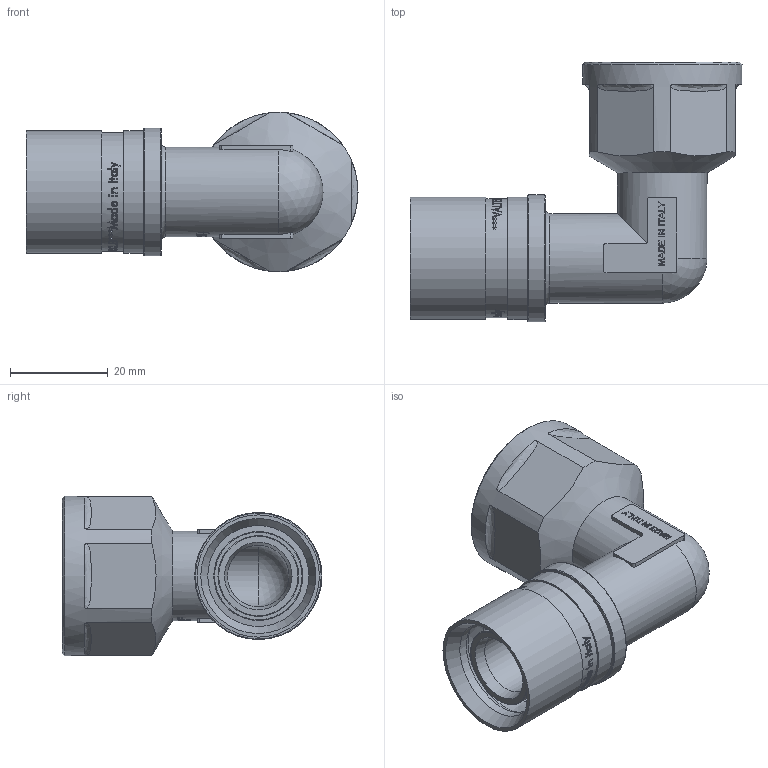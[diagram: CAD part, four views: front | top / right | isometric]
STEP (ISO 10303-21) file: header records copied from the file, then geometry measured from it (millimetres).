
FILE_DESCRIPTION(/* description */ (''),/* implementation_level */ '2;1');
FILE_NAME(/* name */ 'F:\Артём\00000\Работа удаленка\Аксеальные фитинги\VTm.452.BG.002005.stp',/* time_stamp */ '2021-01-27T11:28:07+03:00',/* author */ ('almis'),/* organization */ (''),/* preprocessor_version */ 'ST-DEVELOPER v18',/* originating_system */ 'Autodesk Inventor 2020',/* authorisation */ '');
FILE_SCHEMA (('AUTOMOTIVE_DESIGN { 1 0 10303 214 3 1 1 }'));
Length unit declared in the file: millimetre
Products named in the file (1): VTm.403.BG.001616
Bounding box: 67.86 x 53.1 x 32.6 mm (x, y, z)
Volume: 21133 mm3; surface area: 17447.3 mm2
Topology: 1 solids, 1 shells, 1074 faces, 2945 edges, 1981 vertices
Faces by surface type: bspline 480, plane 426, cylinder 131, torus 23, cone 12, sphere 2
Full cylindrical faces by diameter (mm): 12.6 x2, 15.7 x5, 16.5 x4, 18.2 x1, 18.3 x2, 20.65 x2, 24.1 x8, 24.3 x1, 25 x2, 26 x1, 27.7 x11, 32.6 x1
Entity records: 45875 total; most frequent: CARTESIAN_POINT 21461, ORIENTED_EDGE 5890, DIRECTION 3585, EDGE_CURVE 2945, VERTEX_POINT 1981, LINE 1443, VECTOR 1443, EDGE_LOOP 1184
